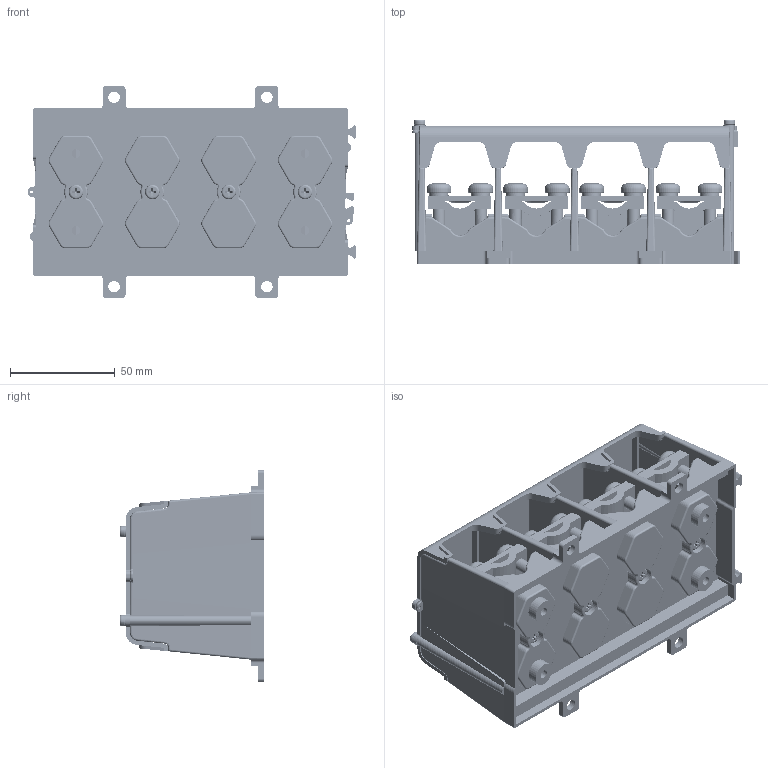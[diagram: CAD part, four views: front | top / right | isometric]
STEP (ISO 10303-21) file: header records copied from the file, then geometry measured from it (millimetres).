
FILE_DESCRIPTION(/* description */ ('Unknown'),/* implementation_level */ '2;1');
FILE_NAME(/* name */ 'DTS4x95_4x1x95',/* time_stamp */ '2024-03-18T08:53:23+01:00',/* author */ ('Unknown'),/* organization */ ('Unknown'),/* preprocessor_version */ 'ST-DEVELOPER v18.102',/* originating_system */ 'Solid Edge',/* authorisation */ 'Unknown');
FILE_SCHEMA (('AUTOMOTIVE_DESIGN {1 0 10303 214 3 1 1}'));
Products named in the file (1): ydfgadr
Bounding box: 156.85 x 69.2 x 101.2 mm (x, y, z)
Volume: 225103.5 mm3; surface area: 177832.1 mm2
Topology: 1 solids, 1 shells, 4749 faces, 13352 edges, 8375 vertices
Faces by surface type: plane 1808, cylinder 1721, cone 660, torus 329, sphere 128, bspline 103
Full cylindrical faces by diameter (mm): 1.4 x3, 3.242 x4, 4 x4, 4.2 x8, 4.4 x12, 5.4 x2, 5.5 x6, 6 x64, 6.4 x32, 7 x4, 7.8 x8, 8 x4, 8.2 x4, 11.3 x4, 11.8 x32
Entity records: 184153 total; most frequent: CARTESIAN_POINT 32786, ORIENTED_EDGE 24930, DIRECTION 24505, EDGE_CURVE 12465, AXIS2_PLACEMENT_3D 9101, VERTEX_POINT 8154, LINE 6303, VECTOR 6303
